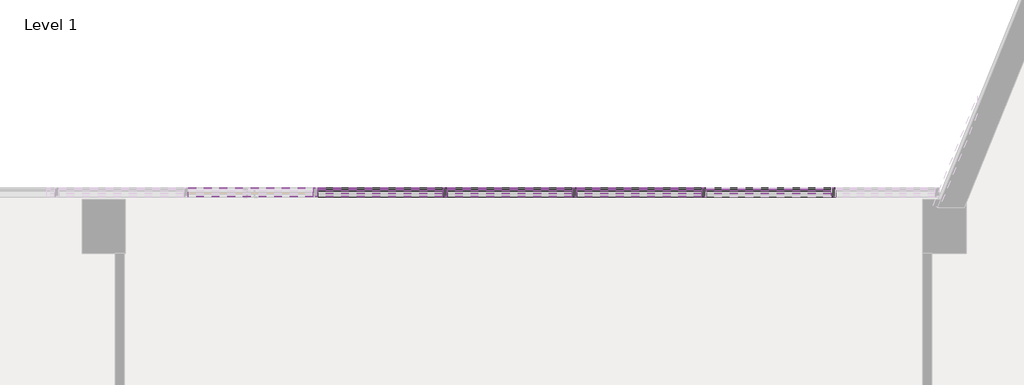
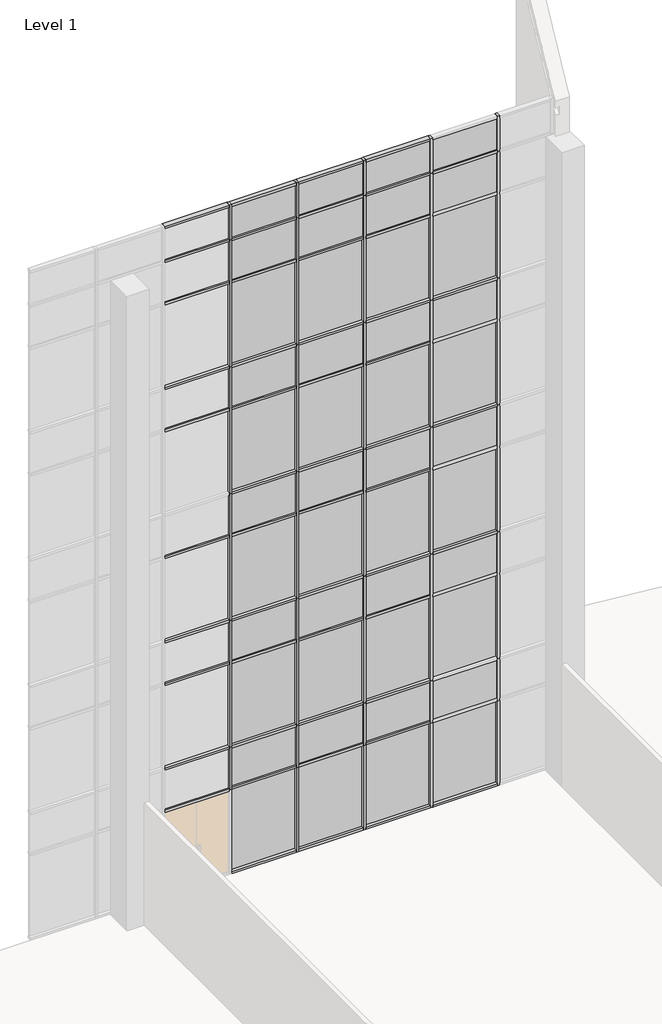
# One storey, part 14 of 23: 85 members, 44 plates.
"""IFC4 building model written with IfcOpenShell, lengths in millimetres."""

from ifc_helpers import new_model, si_unit, origin, place, context, project, spatial, transform, mapped, element, save
from components import member_2b49869a, member_f92b8aa2, member_810865a4, member_f0fea5a5, member_6d5c3e5e, member_9764dd38, system_panel_glazed_14c75400, system_panel_solid_5dfe6f83, system_panel_solid_e25e2004, system_panel_solid_b7551183

model = new_model("IFC4")

# Units and contexts
model_context = context("Model", 3, world=origin())
ifc_project = project(units=[si_unit("LENGTHUNIT", "METRE", prefix="MILLI")], contexts=[model_context])

# Site, building, storey
site = spatial("IfcSite", under=ifc_project)
building = spatial("IfcBuilding", under=site)
storey = spatial("IfcBuildingStorey", under=building, Name="Level 1", Elevation=0.0)

# Members
placement = place(None, origin())
member_shape = member_2b49869a(model_context)
element("IfcMember", 1, ObjectType="Rectangular Mullion : 2.5\" x 5\" rectangular", at=placement, inside=storey, context=model_context, shape_type="MappedRepresentation", body=[
    mapped(member_shape, transform((-37973.8623649, 10017.7896508, 2438.4), x_axis=(1.0, 0.0, 0.0), y_axis=(0.0, -1.0, 0.0), z_axis=(0.0, 0.0, -1.0))),
])
element("IfcMember", 2, ObjectType="Rectangular Mullion : 2.5\" x 5\" rectangular", at=placement, inside=storey, context=model_context, shape_type="MappedRepresentation", body=[
    mapped(member_shape, transform((-39802.6623649, 10017.7896508, 2438.4), x_axis=(1.0, 0.0, 0.0), y_axis=(0.0, -1.0, 0.0), z_axis=(0.0, 0.0, -1.0))),
])
element("IfcMember", 3, ObjectType="Rectangular Mullion : 2.5\" x 5\" rectangular", at=placement, inside=storey, context=model_context, shape_type="MappedRepresentation", body=[
    mapped(member_shape, transform((-34316.2623649, 10017.7896508, 2438.4), x_axis=(1.0, 0.0, 0.0), y_axis=(0.0, -1.0, 0.0), z_axis=(0.0, 0.0, -1.0))),
])
element("IfcMember", 4, ObjectType="Rectangular Mullion : 2.5\" x 5\" rectangular", at=placement, inside=storey, context=model_context, shape_type="MappedRepresentation", body=[
    mapped(member_shape, transform((-36145.0623649, 10017.7896508, 2438.4), x_axis=(1.0, 0.0, 0.0), y_axis=(0.0, -1.0, 0.0), z_axis=(0.0, 0.0, -1.0))),
])
member_2_shape = member_f92b8aa2(model_context)
element("IfcMember", 5, ObjectType="Rectangular Mullion : 2.5\" x 5\" rectangular", at=placement, inside=storey, context=model_context, shape_type="MappedRepresentation", body=[
    mapped(member_2_shape, transform((-37973.8623649, 10017.7896508, 18288.0), x_axis=(1.0, 0.0, 0.0), y_axis=(0.0, -1.0, 0.0), z_axis=(0.0, 0.0, -1.0))),
])
element("IfcMember", 6, ObjectType="Rectangular Mullion : 2.5\" x 5\" rectangular", at=placement, inside=storey, context=model_context, shape_type="MappedRepresentation", body=[
    mapped(member_2_shape, transform((-39802.6623649, 10017.7896508, 18288.0), x_axis=(1.0, 0.0, 0.0), y_axis=(0.0, -1.0, 0.0), z_axis=(0.0, 0.0, -1.0))),
])
element("IfcMember", 7, ObjectType="Rectangular Mullion : 2.5\" x 5\" rectangular", at=placement, inside=storey, context=model_context, shape_type="MappedRepresentation", body=[
    mapped(member_2_shape, transform((-41631.4623649, 10017.7896508, 18288.0), x_axis=(1.0, 0.0, 0.0), y_axis=(0.0, -1.0, 0.0), z_axis=(0.0, 0.0, -1.0))),
])
element("IfcMember", 8, ObjectType="Rectangular Mullion : 2.5\" x 5\" rectangular", at=placement, inside=storey, context=model_context, shape_type="MappedRepresentation", body=[
    mapped(member_2_shape, transform((-34316.2623649, 10017.7896508, 18288.0), x_axis=(1.0, 0.0, 0.0), y_axis=(0.0, -1.0, 0.0), z_axis=(0.0, 0.0, -1.0))),
])
element("IfcMember", 9, ObjectType="Rectangular Mullion : 2.5\" x 5\" rectangular", at=placement, inside=storey, context=model_context, shape_type="MappedRepresentation", body=[
    mapped(member_2_shape, transform((-36145.0623649, 10017.7896508, 18288.0), x_axis=(1.0, 0.0, 0.0), y_axis=(0.0, -1.0, 0.0), z_axis=(0.0, 0.0, -1.0))),
])
member_3_shape = member_810865a4(model_context)
element("IfcMember", 10, ObjectType="Rectangular Mullion : 2.5\" x 5\" rectangular", at=placement, inside=storey, context=model_context, shape_type="MappedRepresentation", body=[
    mapped(member_3_shape, transform((-36145.0623649, 10017.7896508, 14630.4), x_axis=(1.0, 0.0, 0.0), y_axis=(0.0, -1.0, 0.0), z_axis=(0.0, 0.0, -1.0))),
])
element("IfcMember", 11, ObjectType="Rectangular Mullion : 2.5\" x 5\" rectangular", at=placement, inside=storey, context=model_context, shape_type="MappedRepresentation", body=[
    mapped(member_3_shape, transform((-36145.0623649, 10017.7896508, 10972.8), x_axis=(1.0, 0.0, 0.0), y_axis=(0.0, -1.0, 0.0), z_axis=(0.0, 0.0, -1.0))),
])
element("IfcMember", 12, ObjectType="Rectangular Mullion : 2.5\" x 5\" rectangular", at=placement, inside=storey, context=model_context, shape_type="MappedRepresentation", body=[
    mapped(member_3_shape, transform((-36145.0623649, 10017.7896508, 7315.2), x_axis=(1.0, 0.0, 0.0), y_axis=(0.0, -1.0, 0.0), z_axis=(0.0, 0.0, -1.0))),
])
element("IfcMember", 13, ObjectType="Rectangular Mullion : 2.5\" x 5\" rectangular", at=placement, inside=storey, context=model_context, shape_type="MappedRepresentation", body=[
    mapped(member_3_shape, transform((-36145.0623649, 10017.7896508, 3657.6), x_axis=(1.0, 0.0, 0.0), y_axis=(0.0, -1.0, 0.0), z_axis=(0.0, 0.0, -1.0))),
])
element("IfcMember", 14, ObjectType="Rectangular Mullion : 2.5\" x 5\" rectangular", at=placement, inside=storey, context=model_context, shape_type="MappedRepresentation", body=[
    mapped(member_3_shape, transform((-37973.8623649, 10017.7896508, 14630.4), x_axis=(1.0, 0.0, 0.0), y_axis=(0.0, -1.0, 0.0), z_axis=(0.0, 0.0, -1.0))),
])
element("IfcMember", 15, ObjectType="Rectangular Mullion : 2.5\" x 5\" rectangular", at=placement, inside=storey, context=model_context, shape_type="MappedRepresentation", body=[
    mapped(member_3_shape, transform((-37973.8623649, 10017.7896508, 10972.8), x_axis=(1.0, 0.0, 0.0), y_axis=(0.0, -1.0, 0.0), z_axis=(0.0, 0.0, -1.0))),
])
element("IfcMember", 16, ObjectType="Rectangular Mullion : 2.5\" x 5\" rectangular", at=placement, inside=storey, context=model_context, shape_type="MappedRepresentation", body=[
    mapped(member_3_shape, transform((-37973.8623649, 10017.7896508, 7315.2), x_axis=(1.0, 0.0, 0.0), y_axis=(0.0, -1.0, 0.0), z_axis=(0.0, 0.0, -1.0))),
])
element("IfcMember", 17, ObjectType="Rectangular Mullion : 2.5\" x 5\" rectangular", at=placement, inside=storey, context=model_context, shape_type="MappedRepresentation", body=[
    mapped(member_3_shape, transform((-37973.8623649, 10017.7896508, 3657.6), x_axis=(1.0, 0.0, 0.0), y_axis=(0.0, -1.0, 0.0), z_axis=(0.0, 0.0, -1.0))),
])
element("IfcMember", 18, ObjectType="Rectangular Mullion : 2.5\" x 5\" rectangular", at=placement, inside=storey, context=model_context, shape_type="MappedRepresentation", body=[
    mapped(member_3_shape, transform((-39802.6623649, 10017.7896508, 14630.4), x_axis=(1.0, 0.0, 0.0), y_axis=(0.0, -1.0, 0.0), z_axis=(0.0, 0.0, -1.0))),
])
element("IfcMember", 19, ObjectType="Rectangular Mullion : 2.5\" x 5\" rectangular", at=placement, inside=storey, context=model_context, shape_type="MappedRepresentation", body=[
    mapped(member_3_shape, transform((-39802.6623649, 10017.7896508, 10972.8), x_axis=(1.0, 0.0, 0.0), y_axis=(0.0, -1.0, 0.0), z_axis=(0.0, 0.0, -1.0))),
])
element("IfcMember", 20, ObjectType="Rectangular Mullion : 2.5\" x 5\" rectangular", at=placement, inside=storey, context=model_context, shape_type="MappedRepresentation", body=[
    mapped(member_3_shape, transform((-39802.6623649, 10017.7896508, 7315.2), x_axis=(1.0, 0.0, 0.0), y_axis=(0.0, -1.0, 0.0), z_axis=(0.0, 0.0, -1.0))),
])
element("IfcMember", 21, ObjectType="Rectangular Mullion : 2.5\" x 5\" rectangular", at=placement, inside=storey, context=model_context, shape_type="MappedRepresentation", body=[
    mapped(member_3_shape, transform((-39802.6623649, 10017.7896508, 3657.6), x_axis=(1.0, 0.0, 0.0), y_axis=(0.0, -1.0, 0.0), z_axis=(0.0, 0.0, -1.0))),
])
element("IfcMember", 22, ObjectType="Rectangular Mullion : 2.5\" x 5\" rectangular", at=placement, inside=storey, context=model_context, shape_type="MappedRepresentation", body=[
    mapped(member_3_shape, transform((-41631.4623649, 10017.7896508, 14630.4), x_axis=(1.0, 0.0, 0.0), y_axis=(0.0, -1.0, 0.0), z_axis=(0.0, 0.0, -1.0))),
])
element("IfcMember", 23, ObjectType="Rectangular Mullion : 2.5\" x 5\" rectangular", at=placement, inside=storey, context=model_context, shape_type="MappedRepresentation", body=[
    mapped(member_3_shape, transform((-41631.4623649, 10017.7896508, 10972.8), x_axis=(1.0, 0.0, 0.0), y_axis=(0.0, -1.0, 0.0), z_axis=(0.0, 0.0, -1.0))),
])
element("IfcMember", 24, ObjectType="Rectangular Mullion : 2.5\" x 5\" rectangular", at=placement, inside=storey, context=model_context, shape_type="MappedRepresentation", body=[
    mapped(member_3_shape, transform((-41631.4623649, 10017.7896508, 7315.2), x_axis=(1.0, 0.0, 0.0), y_axis=(0.0, -1.0, 0.0), z_axis=(0.0, 0.0, -1.0))),
])
element("IfcMember", 25, ObjectType="Rectangular Mullion : 2.5\" x 5\" rectangular", at=placement, inside=storey, context=model_context, shape_type="MappedRepresentation", body=[
    mapped(member_3_shape, transform((-41631.4623649, 10017.7896508, 3657.6), x_axis=(1.0, 0.0, 0.0), y_axis=(0.0, -1.0, 0.0), z_axis=(0.0, 0.0, -1.0))),
])
element("IfcMember", 26, ObjectType="Rectangular Mullion : 2.5\" x 5\" rectangular", at=placement, inside=storey, context=model_context, shape_type="MappedRepresentation", body=[
    mapped(member_3_shape, transform((-34316.2623649, 10017.7896508, 14630.4), x_axis=(1.0, 0.0, 0.0), y_axis=(0.0, -1.0, 0.0), z_axis=(0.0, 0.0, -1.0))),
])
element("IfcMember", 27, ObjectType="Rectangular Mullion : 2.5\" x 5\" rectangular", at=placement, inside=storey, context=model_context, shape_type="MappedRepresentation", body=[
    mapped(member_3_shape, transform((-34316.2623649, 10017.7896508, 10972.8), x_axis=(1.0, 0.0, 0.0), y_axis=(0.0, -1.0, 0.0), z_axis=(0.0, 0.0, -1.0))),
])
element("IfcMember", 28, ObjectType="Rectangular Mullion : 2.5\" x 5\" rectangular", at=placement, inside=storey, context=model_context, shape_type="MappedRepresentation", body=[
    mapped(member_3_shape, transform((-34316.2623649, 10017.7896508, 7315.2), x_axis=(1.0, 0.0, 0.0), y_axis=(0.0, -1.0, 0.0), z_axis=(0.0, 0.0, -1.0))),
])
element("IfcMember", 29, ObjectType="Rectangular Mullion : 2.5\" x 5\" rectangular", at=placement, inside=storey, context=model_context, shape_type="MappedRepresentation", body=[
    mapped(member_3_shape, transform((-34316.2623649, 10017.7896508, 3657.6), x_axis=(1.0, 0.0, 0.0), y_axis=(0.0, -1.0, 0.0), z_axis=(0.0, 0.0, -1.0))),
])
member_4_shape = member_f0fea5a5(model_context)
element("IfcMember", 30, ObjectType="Rectangular Mullion : 2.5\" x 5\" rectangular", at=placement, inside=storey, context=model_context, shape_type="MappedRepresentation", body=[
    mapped(member_4_shape, transform((-36145.0623649, 10017.7896508, 0.0), x_axis=(1.0, 0.0, 0.0), y_axis=(0.0, -1.0, 0.0), z_axis=(0.0, 0.0, -1.0))),
])
element("IfcMember", 31, ObjectType="Rectangular Mullion : 2.5\" x 5\" rectangular", at=placement, inside=storey, context=model_context, shape_type="MappedRepresentation", body=[
    mapped(member_4_shape, transform((-37973.8623649, 10017.7896508, 0.0), x_axis=(1.0, 0.0, 0.0), y_axis=(0.0, -1.0, 0.0), z_axis=(0.0, 0.0, -1.0))),
])
element("IfcMember", 32, ObjectType="Rectangular Mullion : 2.5\" x 5\" rectangular", at=placement, inside=storey, context=model_context, shape_type="MappedRepresentation", body=[
    mapped(member_4_shape, transform((-39802.6623649, 10017.7896508, 0.0), x_axis=(1.0, 0.0, 0.0), y_axis=(0.0, -1.0, 0.0), z_axis=(0.0, 0.0, -1.0))),
])
element("IfcMember", 33, ObjectType="Rectangular Mullion : 2.5\" x 5\" rectangular", at=placement, inside=storey, context=model_context, shape_type="MappedRepresentation", body=[
    mapped(member_4_shape, transform((-34316.2623649, 10017.7896508, 0.0), x_axis=(1.0, 0.0, 0.0), y_axis=(0.0, -1.0, 0.0), z_axis=(0.0, 0.0, -1.0))),
])
element("IfcMember", 34, ObjectType="Rectangular Mullion : 2.5\" x 5\" rectangular", at=placement, inside=storey, context=model_context, shape_type="MappedRepresentation", body=[
    mapped(member_shape, transform((-41631.4623649, 10017.7896508, 2438.4), x_axis=(1.0, 0.0, 0.0), y_axis=(0.0, -1.0, 0.0), z_axis=(0.0, 0.0, -1.0))),
])
member_5_shape = member_6d5c3e5e(model_context)
element("IfcMember", 35, ObjectType="Rectangular Mullion : 2.5\" x 5\" rectangular", at=placement, inside=storey, context=model_context, shape_type="MappedRepresentation", body=[
    mapped(member_5_shape, transform((-36176.8123649, 10017.7896508, 19304.0), x_axis=(0.0, 0.0, 1.0), y_axis=(0.0, -1.0, 0.0), z_axis=(1.0, 0.0, 0.0))),
])
element("IfcMember", 36, ObjectType="Rectangular Mullion : 2.5\" x 5\" rectangular", at=placement, inside=storey, context=model_context, shape_type="MappedRepresentation", body=[
    mapped(member_5_shape, transform((-38005.6123649, 10017.7896508, 19304.0), x_axis=(0.0, 0.0, 1.0), y_axis=(0.0, -1.0, 0.0), z_axis=(1.0, 0.0, 0.0))),
])
element("IfcMember", 37, ObjectType="Rectangular Mullion : 2.5\" x 5\" rectangular", at=placement, inside=storey, context=model_context, shape_type="MappedRepresentation", body=[
    mapped(member_5_shape, transform((-39834.4123649, 10017.7896508, 19304.0), x_axis=(0.0, 0.0, 1.0), y_axis=(0.0, -1.0, 0.0), z_axis=(1.0, 0.0, 0.0))),
])
element("IfcMember", 38, ObjectType="Rectangular Mullion : 2.5\" x 5\" rectangular", at=placement, inside=storey, context=model_context, shape_type="MappedRepresentation", body=[
    mapped(member_5_shape, transform((-41663.2123649, 10017.7896508, 19304.0), x_axis=(0.0, 0.0, 1.0), y_axis=(0.0, -1.0, 0.0), z_axis=(1.0, 0.0, 0.0))),
])
member_6_shape = member_9764dd38(model_context)
element("IfcMember", 39, ObjectType="Rectangular Mullion : 2.5\" x 5\" rectangular", at=placement, inside=storey, context=model_context, shape_type="MappedRepresentation", body=[
    mapped(member_6_shape, transform((-36176.8123649, 10017.7896508, 17068.8), x_axis=(0.0, 0.0, 1.0), y_axis=(0.0, -1.0, 0.0), z_axis=(1.0, 0.0, 0.0))),
])
element("IfcMember", 40, ObjectType="Rectangular Mullion : 2.5\" x 5\" rectangular", at=placement, inside=storey, context=model_context, shape_type="MappedRepresentation", body=[
    mapped(member_6_shape, transform((-38005.6123649, 10017.7896508, 17068.8), x_axis=(0.0, 0.0, 1.0), y_axis=(0.0, -1.0, 0.0), z_axis=(1.0, 0.0, 0.0))),
])
element("IfcMember", 41, ObjectType="Rectangular Mullion : 2.5\" x 5\" rectangular", at=placement, inside=storey, context=model_context, shape_type="MappedRepresentation", body=[
    mapped(member_6_shape, transform((-39834.4123649, 10017.7896508, 17068.8), x_axis=(0.0, 0.0, 1.0), y_axis=(0.0, -1.0, 0.0), z_axis=(1.0, 0.0, 0.0))),
])
element("IfcMember", 42, ObjectType="Rectangular Mullion : 2.5\" x 5\" rectangular", at=placement, inside=storey, context=model_context, shape_type="MappedRepresentation", body=[
    mapped(member_6_shape, transform((-41663.2123649, 10017.7896508, 17068.8), x_axis=(0.0, 0.0, 1.0), y_axis=(0.0, -1.0, 0.0), z_axis=(1.0, 0.0, 0.0))),
])
element("IfcMember", 43, ObjectType="Rectangular Mullion : 2.5\" x 5\" rectangular", at=placement, inside=storey, context=model_context, shape_type="MappedRepresentation", body=[
    mapped(member_6_shape, transform((-36176.8123649, 10017.7896508, 13411.2), x_axis=(0.0, 0.0, 1.0), y_axis=(0.0, -1.0, 0.0), z_axis=(1.0, 0.0, 0.0))),
])
element("IfcMember", 44, ObjectType="Rectangular Mullion : 2.5\" x 5\" rectangular", at=placement, inside=storey, context=model_context, shape_type="MappedRepresentation", body=[
    mapped(member_6_shape, transform((-38005.6123649, 10017.7896508, 13411.2), x_axis=(0.0, 0.0, 1.0), y_axis=(0.0, -1.0, 0.0), z_axis=(1.0, 0.0, 0.0))),
])
element("IfcMember", 45, ObjectType="Rectangular Mullion : 2.5\" x 5\" rectangular", at=placement, inside=storey, context=model_context, shape_type="MappedRepresentation", body=[
    mapped(member_6_shape, transform((-39834.4123649, 10017.7896508, 13411.2), x_axis=(0.0, 0.0, 1.0), y_axis=(0.0, -1.0, 0.0), z_axis=(1.0, 0.0, 0.0))),
])
element("IfcMember", 46, ObjectType="Rectangular Mullion : 2.5\" x 5\" rectangular", at=placement, inside=storey, context=model_context, shape_type="MappedRepresentation", body=[
    mapped(member_6_shape, transform((-41663.2123649, 10017.7896508, 13411.2), x_axis=(0.0, 0.0, 1.0), y_axis=(0.0, -1.0, 0.0), z_axis=(1.0, 0.0, 0.0))),
])
element("IfcMember", 47, ObjectType="Rectangular Mullion : 2.5\" x 5\" rectangular", at=placement, inside=storey, context=model_context, shape_type="MappedRepresentation", body=[
    mapped(member_6_shape, transform((-36176.8123649, 10017.7896508, 9753.6), x_axis=(0.0, 0.0, 1.0), y_axis=(0.0, -1.0, 0.0), z_axis=(1.0, 0.0, 0.0))),
])
element("IfcMember", 48, ObjectType="Rectangular Mullion : 2.5\" x 5\" rectangular", at=placement, inside=storey, context=model_context, shape_type="MappedRepresentation", body=[
    mapped(member_6_shape, transform((-38005.6123649, 10017.7896508, 9753.6), x_axis=(0.0, 0.0, 1.0), y_axis=(0.0, -1.0, 0.0), z_axis=(1.0, 0.0, 0.0))),
])
element("IfcMember", 49, ObjectType="Rectangular Mullion : 2.5\" x 5\" rectangular", at=placement, inside=storey, context=model_context, shape_type="MappedRepresentation", body=[
    mapped(member_6_shape, transform((-39834.4123649, 10017.7896508, 9753.6), x_axis=(0.0, 0.0, 1.0), y_axis=(0.0, -1.0, 0.0), z_axis=(1.0, 0.0, 0.0))),
])
element("IfcMember", 50, ObjectType="Rectangular Mullion : 2.5\" x 5\" rectangular", at=placement, inside=storey, context=model_context, shape_type="MappedRepresentation", body=[
    mapped(member_6_shape, transform((-41663.2123649, 10017.7896508, 9753.6), x_axis=(0.0, 0.0, 1.0), y_axis=(0.0, -1.0, 0.0), z_axis=(1.0, 0.0, 0.0))),
])
element("IfcMember", 51, ObjectType="Rectangular Mullion : 2.5\" x 5\" rectangular", at=placement, inside=storey, context=model_context, shape_type="MappedRepresentation", body=[
    mapped(member_6_shape, transform((-36176.8123649, 10017.7896508, 6096.0), x_axis=(0.0, 0.0, 1.0), y_axis=(0.0, -1.0, 0.0), z_axis=(1.0, 0.0, 0.0))),
])
element("IfcMember", 52, ObjectType="Rectangular Mullion : 2.5\" x 5\" rectangular", at=placement, inside=storey, context=model_context, shape_type="MappedRepresentation", body=[
    mapped(member_6_shape, transform((-38005.6123649, 10017.7896508, 6096.0), x_axis=(0.0, 0.0, 1.0), y_axis=(0.0, -1.0, 0.0), z_axis=(1.0, 0.0, 0.0))),
])
element("IfcMember", 53, ObjectType="Rectangular Mullion : 2.5\" x 5\" rectangular", at=placement, inside=storey, context=model_context, shape_type="MappedRepresentation", body=[
    mapped(member_6_shape, transform((-39834.4123649, 10017.7896508, 6096.0), x_axis=(0.0, 0.0, 1.0), y_axis=(0.0, -1.0, 0.0), z_axis=(1.0, 0.0, 0.0))),
])
element("IfcMember", 54, ObjectType="Rectangular Mullion : 2.5\" x 5\" rectangular", at=placement, inside=storey, context=model_context, shape_type="MappedRepresentation", body=[
    mapped(member_6_shape, transform((-41663.2123649, 10017.7896508, 6096.0), x_axis=(0.0, 0.0, 1.0), y_axis=(0.0, -1.0, 0.0), z_axis=(1.0, 0.0, 0.0))),
])
element("IfcMember", 55, ObjectType="Rectangular Mullion : 2.5\" x 5\" rectangular", at=placement, inside=storey, context=model_context, shape_type="MappedRepresentation", body=[
    mapped(member_6_shape, transform((-36176.8123649, 10017.7896508, 2470.15), x_axis=(0.0, 0.0, 1.0), y_axis=(0.0, -1.0, 0.0), z_axis=(1.0, 0.0, 0.0))),
])
element("IfcMember", 56, ObjectType="Rectangular Mullion : 2.5\" x 5\" rectangular", at=placement, inside=storey, context=model_context, shape_type="MappedRepresentation", body=[
    mapped(member_6_shape, transform((-38005.6123649, 10017.7896508, 2470.15), x_axis=(0.0, 0.0, 1.0), y_axis=(0.0, -1.0, 0.0), z_axis=(1.0, 0.0, 0.0))),
])
element("IfcMember", 57, ObjectType="Rectangular Mullion : 2.5\" x 5\" rectangular", at=placement, inside=storey, context=model_context, shape_type="MappedRepresentation", body=[
    mapped(member_6_shape, transform((-39834.4123649, 10017.7896508, 2470.15), x_axis=(0.0, 0.0, 1.0), y_axis=(0.0, -1.0, 0.0), z_axis=(1.0, 0.0, 0.0))),
])
element("IfcMember", 58, ObjectType="Rectangular Mullion : 2.5\" x 5\" rectangular", at=placement, inside=storey, context=model_context, shape_type="MappedRepresentation", body=[
    mapped(member_5_shape, transform((-36113.3123649, 10017.7896508, 0.0), x_axis=(0.0, 0.0, -1.0), y_axis=(0.0, -1.0, 0.0), z_axis=(-1.0, 0.0, 0.0))),
])
element("IfcMember", 59, ObjectType="Rectangular Mullion : 2.5\" x 5\" rectangular", at=placement, inside=storey, context=model_context, shape_type="MappedRepresentation", body=[
    mapped(member_5_shape, transform((-37942.1123649, 10017.7896508, 0.0), x_axis=(0.0, 0.0, -1.0), y_axis=(0.0, -1.0, 0.0), z_axis=(-1.0, 0.0, 0.0))),
])
element("IfcMember", 60, ObjectType="Rectangular Mullion : 2.5\" x 5\" rectangular", at=placement, inside=storey, context=model_context, shape_type="MappedRepresentation", body=[
    mapped(member_5_shape, transform((-39770.9123649, 10017.7896508, 0.0), x_axis=(0.0, 0.0, -1.0), y_axis=(0.0, -1.0, 0.0), z_axis=(-1.0, 0.0, 0.0))),
])
element("IfcMember", 61, ObjectType="Rectangular Mullion : 2.5\" x 5\" rectangular", at=placement, inside=storey, context=model_context, shape_type="MappedRepresentation", body=[
    mapped(member_5_shape, transform((-41599.7123649, 10017.7896508, 0.0), x_axis=(0.0, 0.0, -1.0), y_axis=(0.0, -1.0, 0.0), z_axis=(-1.0, 0.0, 0.0))),
])
element("IfcMember", 62, ObjectType="Rectangular Mullion : 2.5\" x 5\" rectangular", at=placement, inside=storey, context=model_context, shape_type="MappedRepresentation", body=[
    mapped(member_6_shape, transform((-34348.0123649, 10017.7896508, 10972.8), x_axis=(0.0, 0.0, 1.0), y_axis=(0.0, -1.0, 0.0), z_axis=(1.0, 0.0, 0.0))),
])
element("IfcMember", 63, ObjectType="Rectangular Mullion : 2.5\" x 5\" rectangular", at=placement, inside=storey, context=model_context, shape_type="MappedRepresentation", body=[
    mapped(member_6_shape, transform((-36176.8123649, 10017.7896508, 10972.8), x_axis=(0.0, 0.0, 1.0), y_axis=(0.0, -1.0, 0.0), z_axis=(1.0, 0.0, 0.0))),
])
element("IfcMember", 64, ObjectType="Rectangular Mullion : 2.5\" x 5\" rectangular", at=placement, inside=storey, context=model_context, shape_type="MappedRepresentation", body=[
    mapped(member_6_shape, transform((-38005.6123649, 10017.7896508, 10972.8), x_axis=(0.0, 0.0, 1.0), y_axis=(0.0, -1.0, 0.0), z_axis=(1.0, 0.0, 0.0))),
])
element("IfcMember", 65, ObjectType="Rectangular Mullion : 2.5\" x 5\" rectangular", at=placement, inside=storey, context=model_context, shape_type="MappedRepresentation", body=[
    mapped(member_6_shape, transform((-39834.4123649, 10017.7896508, 10972.8), x_axis=(0.0, 0.0, 1.0), y_axis=(0.0, -1.0, 0.0), z_axis=(1.0, 0.0, 0.0))),
])
element("IfcMember", 66, ObjectType="Rectangular Mullion : 2.5\" x 5\" rectangular", at=placement, inside=storey, context=model_context, shape_type="MappedRepresentation", body=[
    mapped(member_6_shape, transform((-36176.8123649, 10017.7896508, 7315.2), x_axis=(0.0, 0.0, 1.0), y_axis=(0.0, -1.0, 0.0), z_axis=(1.0, 0.0, 0.0))),
])
element("IfcMember", 67, ObjectType="Rectangular Mullion : 2.5\" x 5\" rectangular", at=placement, inside=storey, context=model_context, shape_type="MappedRepresentation", body=[
    mapped(member_6_shape, transform((-38005.6123649, 10017.7896508, 7315.2), x_axis=(0.0, 0.0, 1.0), y_axis=(0.0, -1.0, 0.0), z_axis=(1.0, 0.0, 0.0))),
])
element("IfcMember", 68, ObjectType="Rectangular Mullion : 2.5\" x 5\" rectangular", at=placement, inside=storey, context=model_context, shape_type="MappedRepresentation", body=[
    mapped(member_6_shape, transform((-39834.4123649, 10017.7896508, 7315.2), x_axis=(0.0, 0.0, 1.0), y_axis=(0.0, -1.0, 0.0), z_axis=(1.0, 0.0, 0.0))),
])
element("IfcMember", 69, ObjectType="Rectangular Mullion : 2.5\" x 5\" rectangular", at=placement, inside=storey, context=model_context, shape_type="MappedRepresentation", body=[
    mapped(member_6_shape, transform((-41663.2123649, 10017.7896508, 7315.2), x_axis=(0.0, 0.0, 1.0), y_axis=(0.0, -1.0, 0.0), z_axis=(1.0, 0.0, 0.0))),
])
element("IfcMember", 70, ObjectType="Rectangular Mullion : 2.5\" x 5\" rectangular", at=placement, inside=storey, context=model_context, shape_type="MappedRepresentation", body=[
    mapped(member_6_shape, transform((-34348.0123649, 10017.7896508, 7315.2), x_axis=(0.0, 0.0, 1.0), y_axis=(0.0, -1.0, 0.0), z_axis=(1.0, 0.0, 0.0))),
])
element("IfcMember", 71, ObjectType="Rectangular Mullion : 2.5\" x 5\" rectangular", at=placement, inside=storey, context=model_context, shape_type="MappedRepresentation", body=[
    mapped(member_6_shape, transform((-34348.0123649, 10017.7896508, 18288.0), x_axis=(0.0, 0.0, 1.0), y_axis=(0.0, -1.0, 0.0), z_axis=(1.0, 0.0, 0.0))),
])
element("IfcMember", 72, ObjectType="Rectangular Mullion : 2.5\" x 5\" rectangular", at=placement, inside=storey, context=model_context, shape_type="MappedRepresentation", body=[
    mapped(member_6_shape, transform((-36176.8123649, 10017.7896508, 18288.0), x_axis=(0.0, 0.0, 1.0), y_axis=(0.0, -1.0, 0.0), z_axis=(1.0, 0.0, 0.0))),
])
element("IfcMember", 73, ObjectType="Rectangular Mullion : 2.5\" x 5\" rectangular", at=placement, inside=storey, context=model_context, shape_type="MappedRepresentation", body=[
    mapped(member_6_shape, transform((-38005.6123649, 10017.7896508, 18288.0), x_axis=(0.0, 0.0, 1.0), y_axis=(0.0, -1.0, 0.0), z_axis=(1.0, 0.0, 0.0))),
])
element("IfcMember", 74, ObjectType="Rectangular Mullion : 2.5\" x 5\" rectangular", at=placement, inside=storey, context=model_context, shape_type="MappedRepresentation", body=[
    mapped(member_6_shape, transform((-39834.4123649, 10017.7896508, 18288.0), x_axis=(0.0, 0.0, 1.0), y_axis=(0.0, -1.0, 0.0), z_axis=(1.0, 0.0, 0.0))),
])
element("IfcMember", 75, ObjectType="Rectangular Mullion : 2.5\" x 5\" rectangular", at=placement, inside=storey, context=model_context, shape_type="MappedRepresentation", body=[
    mapped(member_6_shape, transform((-41663.2123649, 10017.7896508, 18288.0), x_axis=(0.0, 0.0, 1.0), y_axis=(0.0, -1.0, 0.0), z_axis=(1.0, 0.0, 0.0))),
])
element("IfcMember", 76, ObjectType="Rectangular Mullion : 2.5\" x 5\" rectangular", at=placement, inside=storey, context=model_context, shape_type="MappedRepresentation", body=[
    mapped(member_6_shape, transform((-34348.0123649, 10017.7896508, 14630.4), x_axis=(0.0, 0.0, 1.0), y_axis=(0.0, -1.0, 0.0), z_axis=(1.0, 0.0, 0.0))),
])
element("IfcMember", 77, ObjectType="Rectangular Mullion : 2.5\" x 5\" rectangular", at=placement, inside=storey, context=model_context, shape_type="MappedRepresentation", body=[
    mapped(member_6_shape, transform((-36176.8123649, 10017.7896508, 14630.4), x_axis=(0.0, 0.0, 1.0), y_axis=(0.0, -1.0, 0.0), z_axis=(1.0, 0.0, 0.0))),
])
element("IfcMember", 78, ObjectType="Rectangular Mullion : 2.5\" x 5\" rectangular", at=placement, inside=storey, context=model_context, shape_type="MappedRepresentation", body=[
    mapped(member_6_shape, transform((-38005.6123649, 10017.7896508, 14630.4), x_axis=(0.0, 0.0, 1.0), y_axis=(0.0, -1.0, 0.0), z_axis=(1.0, 0.0, 0.0))),
])
element("IfcMember", 79, ObjectType="Rectangular Mullion : 2.5\" x 5\" rectangular", at=placement, inside=storey, context=model_context, shape_type="MappedRepresentation", body=[
    mapped(member_6_shape, transform((-39834.4123649, 10017.7896508, 14630.4), x_axis=(0.0, 0.0, 1.0), y_axis=(0.0, -1.0, 0.0), z_axis=(1.0, 0.0, 0.0))),
])
element("IfcMember", 80, ObjectType="Rectangular Mullion : 2.5\" x 5\" rectangular", at=placement, inside=storey, context=model_context, shape_type="MappedRepresentation", body=[
    mapped(member_6_shape, transform((-41663.2123649, 10017.7896508, 14630.4), x_axis=(0.0, 0.0, 1.0), y_axis=(0.0, -1.0, 0.0), z_axis=(1.0, 0.0, 0.0))),
])
element("IfcMember", 81, ObjectType="Rectangular Mullion : 2.5\" x 5\" rectangular", at=placement, inside=storey, context=model_context, shape_type="MappedRepresentation", body=[
    mapped(member_6_shape, transform((-36176.8123649, 10017.7896508, 3657.6), x_axis=(0.0, 0.0, 1.0), y_axis=(0.0, -1.0, 0.0), z_axis=(1.0, 0.0, 0.0))),
])
element("IfcMember", 82, ObjectType="Rectangular Mullion : 2.5\" x 5\" rectangular", at=placement, inside=storey, context=model_context, shape_type="MappedRepresentation", body=[
    mapped(member_6_shape, transform((-38005.6123649, 10017.7896508, 3657.6), x_axis=(0.0, 0.0, 1.0), y_axis=(0.0, -1.0, 0.0), z_axis=(1.0, 0.0, 0.0))),
])
element("IfcMember", 83, ObjectType="Rectangular Mullion : 2.5\" x 5\" rectangular", at=placement, inside=storey, context=model_context, shape_type="MappedRepresentation", body=[
    mapped(member_6_shape, transform((-39834.4123649, 10017.7896508, 3657.6), x_axis=(0.0, 0.0, 1.0), y_axis=(0.0, -1.0, 0.0), z_axis=(1.0, 0.0, 0.0))),
])
element("IfcMember", 84, ObjectType="Rectangular Mullion : 2.5\" x 5\" rectangular", at=placement, inside=storey, context=model_context, shape_type="MappedRepresentation", body=[
    mapped(member_6_shape, transform((-41663.2123649, 10017.7896508, 3657.6), x_axis=(0.0, 0.0, 1.0), y_axis=(0.0, -1.0, 0.0), z_axis=(1.0, 0.0, 0.0))),
])
element("IfcMember", 85, ObjectType="Rectangular Mullion : 2.5\" x 5\" rectangular", at=placement, inside=storey, context=model_context, shape_type="MappedRepresentation", body=[
    mapped(member_6_shape, transform((-41663.2123649, 10017.7896508, 2438.4), x_axis=(0.0, 0.0, 1.0), y_axis=(0.0, -1.0, 0.0), z_axis=(1.0, 0.0, 0.0))),
])

# Plates
system_panel_glazed_shape = system_panel_glazed_14c75400(model_context)
element("IfcPlate", 86, ObjectType="System Panel : Glazed", at=placement, inside=storey, context=model_context, shape_type="MappedRepresentation", body=[
    mapped(system_panel_glazed_shape, transform((-35230.6623649, 10017.7896508, 14662.15), x_axis=(1.0, 0.0, 0.0), y_axis=(0.0, 1.0, 0.0), z_axis=(0.0, 0.0, 1.0))),
])
element("IfcPlate", 87, ObjectType="System Panel : Glazed", at=placement, inside=storey, context=model_context, shape_type="MappedRepresentation", body=[
    mapped(system_panel_glazed_shape, transform((-37059.4623649, 10017.7896508, 14662.15), x_axis=(1.0, 0.0, 0.0), y_axis=(0.0, 1.0, 0.0), z_axis=(0.0, 0.0, 1.0))),
])
element("IfcPlate", 88, ObjectType="System Panel : Glazed", at=placement, inside=storey, context=model_context, shape_type="MappedRepresentation", body=[
    mapped(system_panel_glazed_shape, transform((-38888.2623649, 10017.7896508, 14662.15), x_axis=(1.0, 0.0, 0.0), y_axis=(0.0, 1.0, 0.0), z_axis=(0.0, 0.0, 1.0))),
])
element("IfcPlate", 89, ObjectType="System Panel : Glazed", at=placement, inside=storey, context=model_context, shape_type="MappedRepresentation", body=[
    mapped(system_panel_glazed_shape, transform((-40717.0623649, 10017.7896508, 14662.15), x_axis=(1.0, 0.0, 0.0), y_axis=(0.0, 1.0, 0.0), z_axis=(0.0, 0.0, 1.0))),
])
element("IfcPlate", 90, ObjectType="System Panel : Glazed", at=placement, inside=storey, context=model_context, shape_type="MappedRepresentation", body=[
    mapped(system_panel_glazed_shape, transform((-35230.6623649, 10017.7896508, 11004.55), x_axis=(1.0, 0.0, 0.0), y_axis=(0.0, 1.0, 0.0), z_axis=(0.0, 0.0, 1.0))),
])
element("IfcPlate", 91, ObjectType="System Panel : Glazed", at=placement, inside=storey, context=model_context, shape_type="MappedRepresentation", body=[
    mapped(system_panel_glazed_shape, transform((-37059.4623649, 10017.7896508, 11004.55), x_axis=(1.0, 0.0, 0.0), y_axis=(0.0, 1.0, 0.0), z_axis=(0.0, 0.0, 1.0))),
])
element("IfcPlate", 92, ObjectType="System Panel : Glazed", at=placement, inside=storey, context=model_context, shape_type="MappedRepresentation", body=[
    mapped(system_panel_glazed_shape, transform((-38888.2623649, 10017.7896508, 11004.55), x_axis=(1.0, 0.0, 0.0), y_axis=(0.0, 1.0, 0.0), z_axis=(0.0, 0.0, 1.0))),
])
element("IfcPlate", 93, ObjectType="System Panel : Glazed", at=placement, inside=storey, context=model_context, shape_type="MappedRepresentation", body=[
    mapped(system_panel_glazed_shape, transform((-40717.0623649, 10017.7896508, 11004.55), x_axis=(1.0, 0.0, 0.0), y_axis=(0.0, 1.0, 0.0), z_axis=(0.0, 0.0, 1.0))),
])
element("IfcPlate", 94, ObjectType="System Panel : Glazed", at=placement, inside=storey, context=model_context, shape_type="MappedRepresentation", body=[
    mapped(system_panel_glazed_shape, transform((-35230.6623649, 10017.7896508, 7346.95), x_axis=(1.0, 0.0, 0.0), y_axis=(0.0, 1.0, 0.0), z_axis=(0.0, 0.0, 1.0))),
])
element("IfcPlate", 95, ObjectType="System Panel : Glazed", at=placement, inside=storey, context=model_context, shape_type="MappedRepresentation", body=[
    mapped(system_panel_glazed_shape, transform((-37059.4623649, 10017.7896508, 7346.95), x_axis=(1.0, 0.0, 0.0), y_axis=(0.0, 1.0, 0.0), z_axis=(0.0, 0.0, 1.0))),
])
element("IfcPlate", 96, ObjectType="System Panel : Glazed", at=placement, inside=storey, context=model_context, shape_type="MappedRepresentation", body=[
    mapped(system_panel_glazed_shape, transform((-38888.2623649, 10017.7896508, 7346.95), x_axis=(1.0, 0.0, 0.0), y_axis=(0.0, 1.0, 0.0), z_axis=(0.0, 0.0, 1.0))),
])
element("IfcPlate", 97, ObjectType="System Panel : Glazed", at=placement, inside=storey, context=model_context, shape_type="MappedRepresentation", body=[
    mapped(system_panel_glazed_shape, transform((-40717.0623649, 10017.7896508, 7346.95), x_axis=(1.0, 0.0, 0.0), y_axis=(0.0, 1.0, 0.0), z_axis=(0.0, 0.0, 1.0))),
])
element("IfcPlate", 98, ObjectType="System Panel : Glazed", at=placement, inside=storey, context=model_context, shape_type="MappedRepresentation", body=[
    mapped(system_panel_glazed_shape, transform((-35230.6623649, 10017.7896508, 3689.35), x_axis=(1.0, 0.0, 0.0), y_axis=(0.0, 1.0, 0.0), z_axis=(0.0, 0.0, 1.0))),
])
element("IfcPlate", 99, ObjectType="System Panel : Glazed", at=placement, inside=storey, context=model_context, shape_type="MappedRepresentation", body=[
    mapped(system_panel_glazed_shape, transform((-37059.4623649, 10017.7896508, 3689.35), x_axis=(1.0, 0.0, 0.0), y_axis=(0.0, 1.0, 0.0), z_axis=(0.0, 0.0, 1.0))),
])
element("IfcPlate", 100, ObjectType="System Panel : Glazed", at=placement, inside=storey, context=model_context, shape_type="MappedRepresentation", body=[
    mapped(system_panel_glazed_shape, transform((-38888.2623649, 10017.7896508, 3689.35), x_axis=(1.0, 0.0, 0.0), y_axis=(0.0, 1.0, 0.0), z_axis=(0.0, 0.0, 1.0))),
])
element("IfcPlate", 101, ObjectType="System Panel : Glazed", at=placement, inside=storey, context=model_context, shape_type="MappedRepresentation", body=[
    mapped(system_panel_glazed_shape, transform((-40717.0623649, 10017.7896508, 3689.35), x_axis=(1.0, 0.0, 0.0), y_axis=(0.0, 1.0, 0.0), z_axis=(0.0, 0.0, 1.0))),
])
element("IfcPlate", 102, ObjectType="System Panel : Glazed", at=placement, inside=storey, context=model_context, shape_type="MappedRepresentation", body=[
    mapped(system_panel_glazed_shape, transform((-35230.6623649, 10017.7896508, 63.5), x_axis=(1.0, 0.0, 0.0), y_axis=(0.0, 1.0, 0.0), z_axis=(0.0, 0.0, 1.0))),
])
element("IfcPlate", 103, ObjectType="System Panel : Glazed", at=placement, inside=storey, context=model_context, shape_type="MappedRepresentation", body=[
    mapped(system_panel_glazed_shape, transform((-37059.4623649, 10017.7896508, 63.5), x_axis=(1.0, 0.0, 0.0), y_axis=(0.0, 1.0, 0.0), z_axis=(0.0, 0.0, 1.0))),
])
element("IfcPlate", 104, ObjectType="System Panel : Glazed", at=placement, inside=storey, context=model_context, shape_type="MappedRepresentation", body=[
    mapped(system_panel_glazed_shape, transform((-38888.2623649, 10017.7896508, 63.5), x_axis=(1.0, 0.0, 0.0), y_axis=(0.0, 1.0, 0.0), z_axis=(0.0, 0.0, 1.0))),
])
element("IfcPlate", 105, ObjectType="System Panel : Glazed", at=placement, inside=storey, context=model_context, shape_type="MappedRepresentation", body=[
    mapped(system_panel_glazed_shape, transform((-40717.0623649, 10017.7896508, 63.5), x_axis=(1.0, 0.0, 0.0), y_axis=(0.0, 1.0, 0.0), z_axis=(0.0, 0.0, 1.0))),
])
system_panel_solid_shape = system_panel_solid_5dfe6f83(model_context)
element("IfcPlate", 106, ObjectType="System Panel : Solid", at=placement, inside=storey, context=model_context, shape_type="MappedRepresentation", body=[
    mapped(system_panel_solid_shape, transform((-40717.0623649, 10017.7896508, 18319.75), x_axis=(1.0, 0.0, 0.0), y_axis=(0.0, 1.0, 0.0), z_axis=(0.0, 0.0, 1.0))),
])
element("IfcPlate", 107, ObjectType="System Panel : Solid", at=placement, inside=storey, context=model_context, shape_type="MappedRepresentation", body=[
    mapped(system_panel_solid_shape, transform((-38888.2623649, 10017.7896508, 18319.75), x_axis=(1.0, 0.0, 0.0), y_axis=(0.0, 1.0, 0.0), z_axis=(0.0, 0.0, 1.0))),
])
element("IfcPlate", 108, ObjectType="System Panel : Solid", at=placement, inside=storey, context=model_context, shape_type="MappedRepresentation", body=[
    mapped(system_panel_solid_shape, transform((-37059.4623649, 10017.7896508, 18319.75), x_axis=(1.0, 0.0, 0.0), y_axis=(0.0, 1.0, 0.0), z_axis=(0.0, 0.0, 1.0))),
])
element("IfcPlate", 109, ObjectType="System Panel : Solid", at=placement, inside=storey, context=model_context, shape_type="MappedRepresentation", body=[
    mapped(system_panel_solid_shape, transform((-35230.6623649, 10017.7896508, 18319.75), x_axis=(1.0, 0.0, 0.0), y_axis=(0.0, 1.0, 0.0), z_axis=(0.0, 0.0, 1.0))),
])
system_panel_solid_2_shape = system_panel_solid_e25e2004(model_context)
element("IfcPlate", 110, ObjectType="System Panel : Solid", at=placement, inside=storey, context=model_context, shape_type="MappedRepresentation", body=[
    mapped(system_panel_solid_2_shape, transform((-35230.6623649, 10017.7896508, 17100.55), x_axis=(1.0, 0.0, 0.0), y_axis=(0.0, 1.0, 0.0), z_axis=(0.0, 0.0, 1.0))),
])
element("IfcPlate", 111, ObjectType="System Panel : Solid", at=placement, inside=storey, context=model_context, shape_type="MappedRepresentation", body=[
    mapped(system_panel_solid_2_shape, transform((-37059.4623649, 10017.7896508, 17100.55), x_axis=(1.0, 0.0, 0.0), y_axis=(0.0, 1.0, 0.0), z_axis=(0.0, 0.0, 1.0))),
])
element("IfcPlate", 112, ObjectType="System Panel : Solid", at=placement, inside=storey, context=model_context, shape_type="MappedRepresentation", body=[
    mapped(system_panel_solid_2_shape, transform((-38888.2623649, 10017.7896508, 17100.55), x_axis=(1.0, 0.0, 0.0), y_axis=(0.0, 1.0, 0.0), z_axis=(0.0, 0.0, 1.0))),
])
element("IfcPlate", 113, ObjectType="System Panel : Solid", at=placement, inside=storey, context=model_context, shape_type="MappedRepresentation", body=[
    mapped(system_panel_solid_2_shape, transform((-40717.0623649, 10017.7896508, 17100.55), x_axis=(1.0, 0.0, 0.0), y_axis=(0.0, 1.0, 0.0), z_axis=(0.0, 0.0, 1.0))),
])
element("IfcPlate", 114, ObjectType="System Panel : Solid", at=placement, inside=storey, context=model_context, shape_type="MappedRepresentation", body=[
    mapped(system_panel_solid_2_shape, transform((-35230.6623649, 10017.7896508, 13442.95), x_axis=(1.0, 0.0, 0.0), y_axis=(0.0, 1.0, 0.0), z_axis=(0.0, 0.0, 1.0))),
])
element("IfcPlate", 115, ObjectType="System Panel : Solid", at=placement, inside=storey, context=model_context, shape_type="MappedRepresentation", body=[
    mapped(system_panel_solid_2_shape, transform((-37059.4623649, 10017.7896508, 13442.95), x_axis=(1.0, 0.0, 0.0), y_axis=(0.0, 1.0, 0.0), z_axis=(0.0, 0.0, 1.0))),
])
element("IfcPlate", 116, ObjectType="System Panel : Solid", at=placement, inside=storey, context=model_context, shape_type="MappedRepresentation", body=[
    mapped(system_panel_solid_2_shape, transform((-38888.2623649, 10017.7896508, 13442.95), x_axis=(1.0, 0.0, 0.0), y_axis=(0.0, 1.0, 0.0), z_axis=(0.0, 0.0, 1.0))),
])
element("IfcPlate", 117, ObjectType="System Panel : Solid", at=placement, inside=storey, context=model_context, shape_type="MappedRepresentation", body=[
    mapped(system_panel_solid_2_shape, transform((-40717.0623649, 10017.7896508, 13442.95), x_axis=(1.0, 0.0, 0.0), y_axis=(0.0, 1.0, 0.0), z_axis=(0.0, 0.0, 1.0))),
])
element("IfcPlate", 118, ObjectType="System Panel : Solid", at=placement, inside=storey, context=model_context, shape_type="MappedRepresentation", body=[
    mapped(system_panel_solid_2_shape, transform((-35230.6623649, 10017.7896508, 9785.35), x_axis=(1.0, 0.0, 0.0), y_axis=(0.0, 1.0, 0.0), z_axis=(0.0, 0.0, 1.0))),
])
element("IfcPlate", 119, ObjectType="System Panel : Solid", at=placement, inside=storey, context=model_context, shape_type="MappedRepresentation", body=[
    mapped(system_panel_solid_2_shape, transform((-37059.4623649, 10017.7896508, 9785.35), x_axis=(1.0, 0.0, 0.0), y_axis=(0.0, 1.0, 0.0), z_axis=(0.0, 0.0, 1.0))),
])
element("IfcPlate", 120, ObjectType="System Panel : Solid", at=placement, inside=storey, context=model_context, shape_type="MappedRepresentation", body=[
    mapped(system_panel_solid_2_shape, transform((-38888.2623649, 10017.7896508, 9785.35), x_axis=(1.0, 0.0, 0.0), y_axis=(0.0, 1.0, 0.0), z_axis=(0.0, 0.0, 1.0))),
])
element("IfcPlate", 121, ObjectType="System Panel : Solid", at=placement, inside=storey, context=model_context, shape_type="MappedRepresentation", body=[
    mapped(system_panel_solid_2_shape, transform((-40717.0623649, 10017.7896508, 9785.35), x_axis=(1.0, 0.0, 0.0), y_axis=(0.0, 1.0, 0.0), z_axis=(0.0, 0.0, 1.0))),
])
element("IfcPlate", 122, ObjectType="System Panel : Solid", at=placement, inside=storey, context=model_context, shape_type="MappedRepresentation", body=[
    mapped(system_panel_solid_2_shape, transform((-35230.6623649, 10017.7896508, 6127.75), x_axis=(1.0, 0.0, 0.0), y_axis=(0.0, 1.0, 0.0), z_axis=(0.0, 0.0, 1.0))),
])
element("IfcPlate", 123, ObjectType="System Panel : Solid", at=placement, inside=storey, context=model_context, shape_type="MappedRepresentation", body=[
    mapped(system_panel_solid_2_shape, transform((-37059.4623649, 10017.7896508, 6127.75), x_axis=(1.0, 0.0, 0.0), y_axis=(0.0, 1.0, 0.0), z_axis=(0.0, 0.0, 1.0))),
])
element("IfcPlate", 124, ObjectType="System Panel : Solid", at=placement, inside=storey, context=model_context, shape_type="MappedRepresentation", body=[
    mapped(system_panel_solid_2_shape, transform((-38888.2623649, 10017.7896508, 6127.75), x_axis=(1.0, 0.0, 0.0), y_axis=(0.0, 1.0, 0.0), z_axis=(0.0, 0.0, 1.0))),
])
element("IfcPlate", 125, ObjectType="System Panel : Solid", at=placement, inside=storey, context=model_context, shape_type="MappedRepresentation", body=[
    mapped(system_panel_solid_2_shape, transform((-40717.0623649, 10017.7896508, 6127.75), x_axis=(1.0, 0.0, 0.0), y_axis=(0.0, 1.0, 0.0), z_axis=(0.0, 0.0, 1.0))),
])
system_panel_solid_3_shape = system_panel_solid_b7551183(model_context)
element("IfcPlate", 126, ObjectType="System Panel : Solid", at=placement, inside=storey, context=model_context, shape_type="MappedRepresentation", body=[
    mapped(system_panel_solid_3_shape, transform((-35230.6623649, 10017.7896508, 2501.9), x_axis=(1.0, 0.0, 0.0), y_axis=(0.0, 1.0, 0.0), z_axis=(0.0, 0.0, 1.0))),
])
element("IfcPlate", 127, ObjectType="System Panel : Solid", at=placement, inside=storey, context=model_context, shape_type="MappedRepresentation", body=[
    mapped(system_panel_solid_3_shape, transform((-37059.4623649, 10017.7896508, 2501.9), x_axis=(1.0, 0.0, 0.0), y_axis=(0.0, 1.0, 0.0), z_axis=(0.0, 0.0, 1.0))),
])
element("IfcPlate", 128, ObjectType="System Panel : Solid", at=placement, inside=storey, context=model_context, shape_type="MappedRepresentation", body=[
    mapped(system_panel_solid_3_shape, transform((-38888.2623649, 10017.7896508, 2501.9), x_axis=(1.0, 0.0, 0.0), y_axis=(0.0, 1.0, 0.0), z_axis=(0.0, 0.0, 1.0))),
])
element("IfcPlate", 129, ObjectType="System Panel : Solid", at=placement, inside=storey, context=model_context, shape_type="MappedRepresentation", body=[
    mapped(system_panel_solid_3_shape, transform((-40717.0623649, 10017.7896508, 2501.9), x_axis=(1.0, 0.0, 0.0), y_axis=(0.0, 1.0, 0.0), z_axis=(0.0, 0.0, 1.0))),
])

save(model, "model.ifc")
